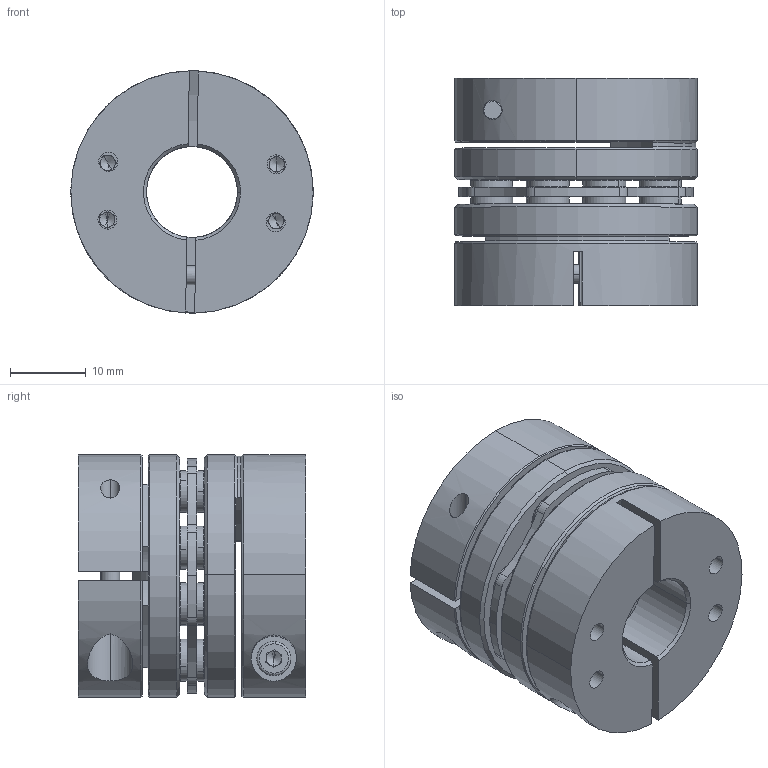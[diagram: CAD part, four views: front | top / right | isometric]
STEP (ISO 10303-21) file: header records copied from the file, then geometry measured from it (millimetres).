
FILE_DESCRIPTION (( 'STEP AP203' ), '1' );
FILE_NAME ('LDG-32-B1-12-12.STEP', '2021-10-28T05:17:32', ( '' ), ( '' ), 'SwSTEP 2.0', 'SolidWorks 2018', '' );
FILE_SCHEMA (( 'CONFIG_CONTROL_DESIGN' ));
Length unit declared in the file: millimetre
Products named in the file (2): LDG-32-B1-12-12; 錨璃5^LDG-32蚾饜芞1
Assembly tree (1 placements, depth 2):
  LDG-32-B1-12-12
    錨璃5^LDG-32蚾饜芞1
Bounding box: 32 x 30 x 32 mm (x, y, z)
Volume: 16985.5 mm3; surface area: 13048.6 mm2
Topology: 1 solids, 11 shells, 795 faces, 1967 edges, 1216 vertices
Faces by surface type: cylinder 301, plane 244, cone 230, torus 20
Entity records: 24191 total; most frequent: CARTESIAN_POINT 4472, DIRECTION 4465, ORIENTED_EDGE 3878, EDGE_CURVE 1939, AXIS2_PLACEMENT_3D 1819, VERTEX_POINT 1216, CIRCLE 1020, EDGE_LOOP 939
